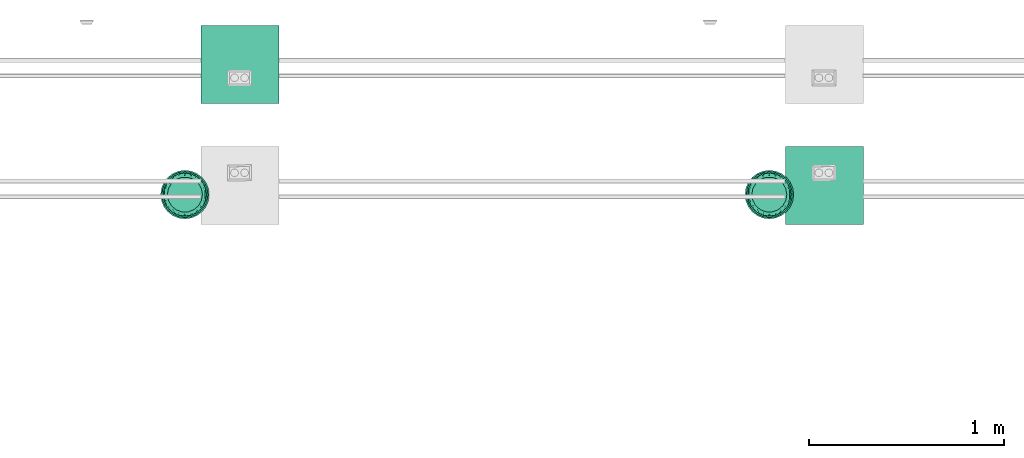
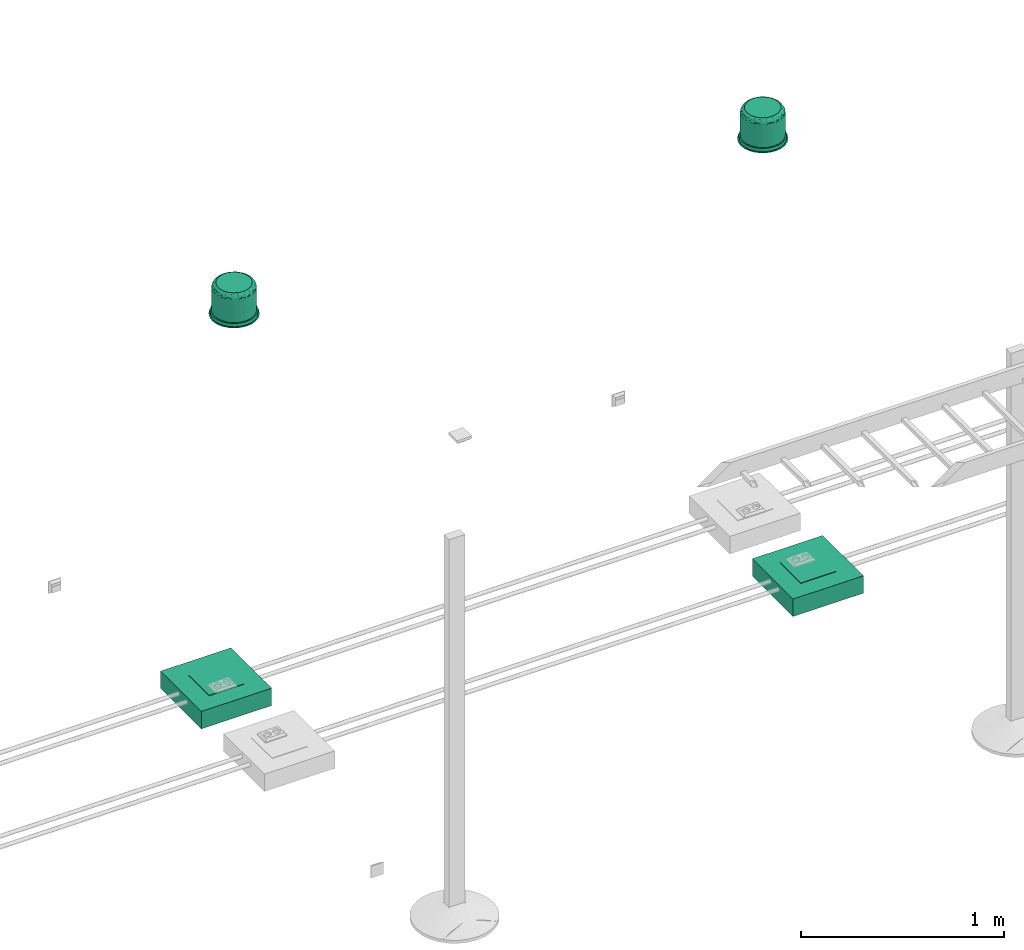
# One storey, part 17 of 24: 4 flow terminals.
"""IFC2X3 building model written with IfcOpenShell, lengths in millimetres."""

from ifc_helpers import new_model, entity, si_unit, converted_unit, derived_unit, direction, frame, origin_with_axes, place, context, subcontext, project, spatial, open_shell, surface_model, source, transform, mapped, type_object, element, save


model = new_model("IFC2X3")

# Units and contexts
model_context = context("Model", 3, precision=0.01, world=frame((0.0, 4.29681676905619e-09, 0.0)), true_north=direction((4.01073788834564e-13, 1.0)))
plan_context = context("Plan", 3, precision=0.01, world=frame((0.0, 4.29681676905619e-09, 0.0)), true_north=direction((4.01073788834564e-13, 1.0)))
body_context = subcontext(model_context, "Body", "Model", "MODEL_VIEW")
ifc_project = project(units=[converted_unit("PLANEANGLEUNIT", "DEGREE", entity("IfcPositiveLengthMeasure", 0.0174532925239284), si_unit("PLANEANGLEUNIT", "RADIAN"), dimensions=[0, 0, 0, 0, 0, 0, 0]), si_unit("AREAUNIT", "SQUARE_METRE"), si_unit("LENGTHUNIT", "METRE", prefix="MILLI"), si_unit("MASSUNIT", "GRAM", prefix="KILO"), si_unit("POWERUNIT", "WATT"), si_unit("PRESSUREUNIT", "PASCAL"), si_unit("FORCEUNIT", "NEWTON", prefix="KILO"), si_unit("ELECTRICVOLTAGEUNIT", "VOLT"), si_unit("ELECTRICCURRENTUNIT", "AMPERE"), si_unit("THERMODYNAMICTEMPERATUREUNIT", "DEGREE_CELSIUS"), si_unit("TIMEUNIT", "SECOND"), si_unit("VOLUMEUNIT", "CUBIC_METRE"), derived_unit("LINEARVELOCITYUNIT", [(si_unit("LENGTHUNIT", "METRE"), 1), (si_unit("TIMEUNIT", "SECOND"), -1)]), derived_unit("VOLUMETRICFLOWRATEUNIT", [(si_unit("VOLUMEUNIT", "CUBIC_METRE"), 1), (si_unit("TIMEUNIT", "SECOND"), -1)]), derived_unit("THERMALTRANSMITTANCEUNIT", [(si_unit("POWERUNIT", "WATT"), 1), (si_unit("THERMODYNAMICTEMPERATUREUNIT", "KELVIN"), -1), (si_unit("AREAUNIT", "SQUARE_METRE"), -1)]), derived_unit("SOUNDPRESSUREUNIT", [(si_unit("PRESSUREUNIT", "PASCAL"), 1)])], contexts=[model_context, plan_context])

# Site, building, storey
site_placement = place(None, frame((0.0, -4.29681676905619e-09, 0.0), z_axis=(0.0, 0.0, 1.0), x_axis=(1.0, 0.0, 0.0)))
site = spatial("IfcSite", under=ifc_project, at=site_placement, Name="ENGM", CompositionType="ELEMENT")
building_placement = place(site_placement, frame((0.0, 4.29681676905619e-09, 0.0), z_axis=(0.0, 0.0, 1.0), x_axis=(1.0, 0.0, 0.0)))
building = spatial("IfcBuilding", under=site, at=building_placement, Name="TH", CompositionType="ELEMENT")
storey_placement = place(building_placement, frame((0.0, 0.0, 210200.0), z_axis=(0.0, 0.0, 1.0), x_axis=(1.0, 0.0, 0.0)))
storey = spatial("IfcBuildingStorey", under=building, at=storey_placement, Name="Nivå F - 0,7 m", CompositionType="ELEMENT", Elevation=210200.0)

# Flow terminals
electric_appliance_type_1 = type_object("IfcElectricApplianceType", Name="Gulvboks 400x400", PredefinedType="NOTDEFINED")
shared_shape_1 = source(origin_with_axes(), body_context, "Body", "SurfaceModel", [
    surface_model("IfcShellBasedSurfaceModel", [(199.96, -199.96, -8.96812), (199.96, 200.0, -8.96812), (-200.0, 200.0, -8.96812), (-200.0, -199.96, -8.96812), (-200.0, -199.96, -108.96812), (-200.0, 200.0, -108.96812), (199.96, -199.96, -108.96812), (199.96, 200.0, -108.96812), (99.91278, -102.96181, -1.48406), (99.91278, 100.0, -1.48406), (-100.0, -102.96181, -1.48406), (-100.0, 100.0, -1.48406), (-100.0, -102.96181, -4.48406), (-100.0, 100.0, -4.48406), (99.91278, 100.0, -4.48406), (99.91278, -102.96181, -4.48406), (199.96, -199.96, -4.48406), (199.96, 200.0, -4.48406), (-200.0, 200.0, -4.48406), (-200.0, -199.96, -4.48406), (-200.0, -199.96, -104.48406), (-200.0, 200.0, -104.48406), (199.96, -199.96, -104.48406), (199.96, 200.0, -104.48406)], [open_shell([[[0, 1, 2]], [[2, 3, 0]], [[4, 5, 6]], [[7, 6, 5]], [[2, 1, 7]], [[7, 5, 2]], [[3, 2, 5]], [[5, 4, 3]], [[0, 3, 4]], [[4, 6, 0]], [[1, 0, 6]], [[6, 7, 1]], [[8, 9, 10]], [[11, 10, 9]], [[12, 13, 14]], [[14, 15, 12]], [[11, 9, 14]], [[14, 13, 11]], [[10, 11, 13]], [[13, 12, 10]], [[8, 10, 12]], [[12, 15, 8]], [[9, 8, 15]], [[15, 14, 9]], [[16, 17, 18]], [[18, 19, 16]], [[20, 21, 22]], [[23, 22, 21]], [[18, 17, 23]], [[23, 21, 18]], [[19, 18, 21]], [[21, 20, 19]], [[16, 19, 20]], [[20, 22, 16]], [[17, 16, 22]], [[22, 23, 17]]])]),
])
for number, where, z_axis, x_axis, name in (
    (1, (906999.725, 486379.56407, 1.5), (0.0, 0.0, 1.0), (1.0, 0.0, 0.0), "Gulvboks 400x400"),
    (2, (903999.725, 486999.56407, 1.5), (0.0, 0.0, 1.0), (1.0, 0.0, 0.0), "Gulvboks 400x400"),
):
    element("IfcFlowTerminal", number, at=place(storey_placement, frame(where, z_axis=z_axis, x_axis=x_axis)), inside=storey, type_object=electric_appliance_type_1, Name=name, context=body_context, shape_type="MappedRepresentation", body=[
        mapped(shared_shape_1, transform((0.0, 0.0, 0.0), scale=1.0)),
    ])
electric_appliance_type_2 = type_object("IfcElectricApplianceType", Name="Høyttaler innfelt", PredefinedType="NOTDEFINED")
shared_shape_2 = source(origin_with_axes(), body_context, "Body", "SurfaceModel", [
    surface_model("IfcShellBasedSurfaceModel", [(-68.944, 57.85088, 184.0), (-58.59195, 79.97902, 179.50754), (-80.0329, 55.28406, 180.76938), (-78.29994, 75.83774, 166.88554), (-50.40099, 96.24365, 167.73947), (-65.24416, 89.80089, 159.0), (-45.0, 77.94229, 184.0), (104.29833, 0.0, 174.69059), (98.55658, 30.89802, 175.83351), (97.14917, 0.0, 179.3453), (-98.55658, 30.89802, 175.83351), (-104.29833, 0.0, 174.69059), (-97.14917, 0.0, 179.3453), (93.09772, 49.71788, 173.10261), (104.32878, 23.10743, 171.13623), (97.92626, 46.3605, 168.38431), (-15.62834, 88.6327, 184.0), (-30.79138, 92.23996, 180.78615), (-104.32878, 23.10743, 171.13623), (55.89313, 88.54638, 174.18746), (30.93861, 99.42219, 174.89528), (58.59195, 79.97902, 179.50754), (-97.92626, 46.3605, 168.38431), (-93.09772, 49.71788, 173.10261), (-61.47959, 85.0435, 173.90083), (-30.93861, 99.42219, 174.89528), (45.0, 77.94229, 184.0), (68.944, 57.85088, 184.0), (-84.57234, 30.78181, 184.0), (-92.49153, 28.27678, 181.10339), (-89.80089, 65.24416, 159.0), (17.39577, 107.47851, 167.19599), (34.30089, 105.56728, 159.0), (0.0, 111.0, 159.0), (-34.30089, 105.56728, 159.0), (-17.39574, 107.47094, 167.21376), (30.79138, 92.23996, 180.78615), (0.0, 99.14465, 179.50754), (15.62834, 88.6327, 184.0), (-81.90835, 64.40302, 174.81219), (0.05017, 105.30857, 173.41796), (80.0329, 55.28406, 180.76938), (84.57234, 30.78181, 184.0), (90.0, 0.0, 184.0), (92.49153, 28.27678, 181.10339), (50.40099, 96.24365, 167.73947), (89.80089, 65.24416, 159.0), (105.56728, 34.30089, 159.0), (65.24416, 89.80089, 159.0), (-105.56728, 34.30089, 159.0), (78.29994, 75.83774, 166.88554), (105.52114, 29.61929, 165.29825), (90.11049, 46.65977, 177.6147), (-90.11049, 46.65977, 177.6147), (-107.8502, 0.0, 166.3746), (-105.52114, 29.61929, 165.29825), (-90.0, 0.0, 184.0), (81.90835, 64.40302, 174.81219), (-111.0, 0.0, 159.0), (111.0, 0.0, 159.0), (107.8502, 0.0, 166.3746), (68.944, -57.85088, 184.0), (58.59195, -79.97902, 179.50754), (80.0329, -55.28406, 180.76938), (78.29994, -75.83774, 166.88554), (50.40099, -96.24365, 167.73947), (65.24416, -89.80089, 159.0), (45.0, -77.94229, 184.0), (-98.55658, -30.89802, 175.83351), (98.55658, -30.89802, 175.83351), (-93.09772, -49.71788, 173.10261), (-104.32878, -23.10743, 171.13623), (-97.92626, -46.3605, 168.38431), (15.62834, -88.6327, 184.0), (30.79138, -92.23996, 180.78615), (104.32878, -23.10743, 171.13623), (-55.89313, -88.54638, 174.18746), (-30.93861, -99.42219, 174.89528), (-58.59195, -79.97902, 179.50754), (97.92626, -46.3605, 168.38431), (93.09772, -49.71788, 173.10261), (61.47959, -85.0435, 173.90083), (30.93861, -99.42219, 174.89528), (-45.0, -77.94229, 184.0), (-68.944, -57.85088, 184.0), (84.57234, -30.78181, 184.0), (92.49153, -28.27678, 181.10339), (89.80089, -65.24416, 159.0), (-17.39577, -107.47851, 167.19599), (-34.30089, -105.56728, 159.0), (0.0, -111.0, 159.0), (34.30089, -105.56728, 159.0), (17.39574, -107.47094, 167.21376), (81.90835, -64.40302, 174.81219), (-30.79138, -92.23996, 180.78615), (-15.62834, -88.6327, 184.0), (0.0, -99.14465, 179.50754), (-0.05017, -105.30857, 173.41796), (-80.0329, -55.28406, 180.76938), (-84.57234, -30.78181, 184.0), (-92.49153, -28.27678, 181.10339), (-50.40099, -96.24365, 167.73947), (-89.80089, -65.24416, 159.0), (-105.56728, -34.30089, 159.0), (-65.24416, -89.80089, 159.0), (-78.29994, -75.83774, 166.88554), (-90.11049, -46.65977, 177.6147), (-105.52114, -29.61929, 165.29825), (105.56728, -34.30089, 159.0), (90.11049, -46.65977, 177.6147), (105.52114, -29.61929, 165.29825), (-81.90835, -64.40302, 174.81219), (0.0, 0.0, 159.0), (0.0, 0.0, 184.0), (96.12882, -55.5, 159.0), (28.72892, -107.21777, 159.0), (55.5, -96.12882, 159.0), (78.48885, -78.48885, 159.0), (107.21777, -28.72892, 159.0), (-78.48885, -78.48885, 159.0), (-96.12882, 55.5, 159.0), (-55.5, -96.12882, 159.0), (-28.72892, -107.21777, 159.0), (-96.12882, -55.5, 159.0), (-107.21777, -28.72892, 159.0), (107.21777, 28.72892, 159.0), (55.5, 96.12882, 159.0), (96.12882, 55.5, 159.0), (78.48885, 78.48885, 159.0), (28.72892, 107.21777, 159.0), (-28.72892, 107.21777, 159.0), (-107.21777, 28.72892, 159.0), (-78.48885, 78.48885, 159.0), (-55.5, 96.12882, 159.0), (28.72892, 107.21777, 20.0), (-28.72892, 107.21777, 20.0), (0.0, 111.0, 20.0), (96.12882, 55.5, 20.0), (55.5, 96.12882, 20.0), (107.21777, 28.72892, 20.0), (78.48885, 78.48885, 20.0), (-96.12882, 55.5, 20.0), (-78.48885, 78.48885, 20.0), (-55.5, 96.12882, 20.0), (-107.21777, 28.72892, 20.0), (-96.12882, -55.5, 20.0), (-111.0, 0.0, 20.0), (-78.48885, -78.48885, 20.0), (111.0, 0.0, 20.0), (107.21777, -28.72892, 20.0), (96.12882, -55.5, 20.0), (28.72892, -107.21777, 20.0), (55.5, -96.12882, 20.0), (78.48885, -78.48885, 20.0), (-107.21777, -28.72892, 20.0), (-55.5, -96.12882, 20.0), (0.0, -111.0, 20.0), (-28.72892, -107.21777, 20.0), (0.0, -118.0, 20.0), (30.54065, -113.97924, 20.0), (59.0, -102.191, 20.0), (83.4386, -83.4386, 20.0), (102.191, -59.0, 20.0), (113.97924, -30.54065, 20.0), (118.0, 0.0, 20.0), (-30.54065, -113.97924, 20.0), (-83.4386, -83.4386, 20.0), (-59.0, -102.191, 20.0), (-118.0, 0.0, 20.0), (-102.191, -59.0, 20.0), (-113.97924, -30.54065, 20.0), (113.97924, 30.54065, 20.0), (102.191, 59.0, 20.0), (83.4386, 83.4386, 20.0), (59.0, 102.191, 20.0), (30.54065, 113.97924, 20.0), (0.0, 118.0, 20.0), (-30.54065, 113.97924, 20.0), (-102.191, 59.0, 20.0), (-113.97924, 30.54065, 20.0), (-83.4386, 83.4386, 20.0), (-59.0, 102.191, 20.0), (0.0, 118.0, 0.0), (30.54065, 113.97924, 0.0), (59.0, 102.191, 0.0), (-83.4386, 83.4386, 0.0), (83.4386, 83.4386, 0.0), (102.191, 59.0, 0.0), (113.97924, 30.54065, 0.0), (-118.0, 0.0, 0.0), (-113.97924, -30.54065, 0.0), (-30.54065, 113.97924, 0.0), (-59.0, 102.191, 0.0), (-102.191, 59.0, 0.0), (-113.97924, 30.54065, 0.0), (118.0, 0.0, 0.0), (113.97924, -30.54065, 0.0), (102.191, -59.0, 0.0), (83.4386, -83.4386, 0.0), (59.0, -102.191, 0.0), (30.54065, -113.97924, 0.0), (-83.4386, -83.4386, 0.0), (-102.191, -59.0, 0.0), (-30.54065, -113.97924, 0.0), (-59.0, -102.191, 0.0), (0.0, -118.0, 0.0), (-32.35238, 120.74073, 0.0), (-62.5, 108.25318, 0.0), (-88.38835, 88.38835, 0.0), (-108.25318, 62.5, 0.0), (-120.74073, 32.35238, 0.0), (62.5, 108.25318, 0.0), (-125.0, 0.0, 0.0), (0.0, 125.0, 0.0), (32.35238, 120.74073, 0.0), (88.38835, 88.38835, 0.0), (120.74073, 32.35238, 0.0), (108.25318, 62.5, 0.0), (-120.74073, -32.35238, 0.0), (125.0, 0.0, 0.0), (-108.25318, -62.5, 0.0), (-32.35238, -120.74073, 0.0), (-88.38835, -88.38835, 0.0), (-62.5, -108.25318, 0.0), (0.0, -125.0, 0.0), (120.74073, -32.35238, 0.0), (88.38835, -88.38835, 0.0), (108.25318, -62.5, 0.0), (32.35238, -120.74073, 0.0), (62.5, -108.25318, 0.0), (-32.35238, -120.74073, -3.0), (88.38835, -88.38835, -3.0), (0.0, -125.0, -3.0), (-88.38835, -88.38835, -3.0), (-62.5, -108.25318, -3.0), (-108.25318, -62.5, -3.0), (-120.74073, -32.35238, -3.0), (88.38835, 88.38835, -3.0), (32.35238, -120.74073, -3.0), (62.5, -108.25318, -3.0), (120.74073, -32.35238, -3.0), (108.25318, -62.5, -3.0), (125.0, 0.0, -3.0), (-125.0, 0.0, -3.0), (-120.74073, 32.35238, -3.0), (-32.35238, 120.74073, -3.0), (-108.25318, 62.5, -3.0), (-88.38835, 88.38835, -3.0), (-62.5, 108.25318, -3.0), (120.74073, 32.35238, -3.0), (108.25318, 62.5, -3.0), (62.5, 108.25318, -3.0), (0.0, 125.0, -3.0), (32.35238, 120.74073, -3.0), (-84.57234, 30.78181, -6.0), (-102.5, 0.0, -5.0), (-96.31849, 35.05706, -5.0), (-45.0, 77.94229, -6.0), (-78.51955, 65.88573, -5.0), (-51.25, 88.7676, -5.0), (-68.944, 57.85088, -6.0), (-17.79894, 100.94279, -5.0), (-15.62834, 88.6327, -6.0), (-90.0, 0.0, -6.0), (15.62834, 88.6327, -6.0), (45.0, 77.94229, -6.0), (17.79894, 100.94279, -5.0), (51.25, 88.7676, -5.0), (96.31849, 35.05706, -5.0), (102.5, 0.0, -5.0), (90.0, 0.0, -6.0), (78.51955, 65.88573, -5.0), (68.944, 57.85088, -6.0), (84.57234, 30.78181, -6.0), (84.57234, -30.78181, -6.0), (96.31849, -35.05706, -5.0), (45.0, -77.94229, -6.0), (78.51955, -65.88573, -5.0), (51.25, -88.7676, -5.0), (68.944, -57.85088, -6.0), (17.79894, -100.94279, -5.0), (15.62834, -88.6327, -6.0), (-15.62834, -88.6327, -6.0), (-45.0, -77.94229, -6.0), (-17.79894, -100.94279, -5.0), (-51.25, -88.7676, -5.0), (-84.57234, -30.78181, -6.0), (-78.51955, -65.88573, -5.0), (-96.31849, -35.05706, -5.0), (-68.944, -57.85088, -6.0), (0.0, 0.0, -6.0), (106.99386, 34.76441, -3.0), (0.0, 0.0, -3.0), (112.5, 0.0, -3.0), (91.01441, 66.12584, -3.0), (66.12584, 91.01441, -3.0), (34.76441, 106.99386, -3.0), (0.0, 112.5, -3.0), (-91.01441, 66.12584, -3.0), (-106.99386, 34.76441, -3.0), (-66.12584, 91.01441, -3.0), (-34.76441, 106.99386, -3.0), (-112.5, 0.0, -3.0), (66.12584, -91.01441, -3.0), (91.01441, -66.12584, -3.0), (34.76441, -106.99386, -3.0), (106.99386, -34.76441, -3.0), (0.0, -112.5, -3.0), (-66.12584, -91.01441, -3.0), (-34.76441, -106.99386, -3.0), (-91.01441, -66.12584, -3.0), (-106.99386, -34.76441, -3.0)], [open_shell([[[0, 1, 2]], [[3, 4, 5]], [[0, 6, 1]], [[7, 8, 9]], [[10, 11, 12]], [[13, 14, 15]], [[7, 14, 8]], [[6, 16, 17]], [[18, 11, 10]], [[19, 20, 21]], [[22, 23, 3]], [[24, 25, 4]], [[26, 27, 21]], [[28, 2, 29]], [[3, 5, 30]], [[31, 32, 33]], [[33, 34, 35]], [[36, 37, 38]], [[4, 35, 34]], [[1, 24, 39]], [[26, 36, 38]], [[17, 37, 25]], [[20, 31, 40]], [[21, 20, 36]], [[41, 21, 27]], [[41, 27, 42]], [[0, 2, 28]], [[43, 9, 44]], [[20, 19, 45]], [[46, 15, 47]], [[17, 1, 6]], [[31, 20, 45]], [[48, 32, 45]], [[30, 49, 22]], [[34, 5, 4]], [[15, 46, 50]], [[14, 51, 15]], [[48, 50, 46]], [[33, 35, 31]], [[8, 13, 52]], [[2, 39, 53]], [[37, 16, 38]], [[54, 18, 55]], [[28, 29, 56]], [[45, 19, 50]], [[37, 17, 16]], [[1, 17, 25]], [[21, 36, 26]], [[37, 36, 20]], [[1, 39, 2]], [[23, 53, 39]], [[44, 41, 42]], [[57, 21, 41]], [[10, 12, 29]], [[22, 18, 23]], [[13, 8, 14]], [[52, 41, 44]], [[4, 25, 35]], [[25, 37, 40]], [[31, 35, 40]], [[45, 32, 31]], [[22, 3, 30]], [[3, 39, 24]], [[45, 50, 48]], [[50, 57, 13]], [[58, 54, 55]], [[23, 18, 10]], [[59, 47, 51]], [[56, 29, 12]], [[43, 44, 42]], [[8, 44, 9]], [[25, 40, 35]], [[20, 40, 37]], [[25, 24, 1]], [[3, 24, 4]], [[21, 57, 19]], [[50, 19, 57]], [[53, 23, 10]], [[3, 23, 39]], [[10, 29, 53]], [[2, 53, 29]], [[50, 13, 15]], [[52, 13, 57]], [[41, 52, 57]], [[44, 8, 52]], [[55, 18, 22]], [[54, 11, 18]], [[22, 49, 55]], [[55, 49, 58]], [[7, 60, 14]], [[60, 59, 51]], [[60, 51, 14]], [[47, 15, 51]], [[61, 62, 63]], [[64, 65, 66]], [[61, 67, 62]], [[11, 68, 12]], [[69, 7, 9]], [[70, 71, 72]], [[11, 71, 68]], [[67, 73, 74]], [[75, 7, 69]], [[76, 77, 78]], [[79, 80, 64]], [[81, 82, 65]], [[83, 84, 78]], [[85, 63, 86]], [[64, 66, 87]], [[88, 89, 90]], [[90, 91, 92]], [[91, 66, 65]], [[65, 92, 91]], [[62, 81, 93]], [[83, 94, 95]], [[74, 96, 82]], [[77, 88, 97]], [[78, 77, 94]], [[98, 78, 84]], [[98, 84, 99]], [[61, 63, 85]], [[56, 12, 100]], [[77, 76, 101]], [[102, 72, 103]], [[104, 105, 102]], [[88, 77, 101]], [[104, 89, 101]], [[68, 70, 106]], [[74, 62, 67]], [[72, 102, 105]], [[71, 107, 72]], [[87, 108, 79]], [[90, 92, 88]], [[94, 96, 95]], [[63, 93, 109]], [[96, 73, 95]], [[60, 75, 110]], [[85, 86, 43]], [[101, 76, 105]], [[96, 74, 73]], [[62, 74, 82]], [[78, 94, 83]], [[96, 94, 77]], [[62, 93, 63]], [[80, 109, 93]], [[100, 98, 99]], [[111, 78, 98]], [[69, 9, 86]], [[79, 75, 80]], [[70, 68, 71]], [[106, 98, 100]], [[65, 82, 92]], [[82, 96, 97]], [[88, 92, 97]], [[101, 89, 88]], [[79, 64, 87]], [[64, 93, 81]], [[101, 105, 104]], [[105, 111, 70]], [[59, 60, 110]], [[80, 75, 69]], [[58, 103, 107]], [[43, 86, 9]], [[56, 100, 99]], [[68, 100, 12]], [[82, 97, 92]], [[77, 97, 96]], [[82, 81, 62]], [[64, 81, 65]], [[78, 111, 76]], [[105, 76, 111]], [[109, 80, 69]], [[64, 80, 93]], [[69, 86, 109]], [[63, 109, 86]], [[105, 70, 72]], [[106, 70, 111]], [[98, 106, 111]], [[100, 68, 106]], [[110, 75, 79]], [[60, 7, 75]], [[79, 108, 110]], [[110, 108, 59]], [[11, 54, 71]], [[54, 58, 107]], [[54, 107, 71]], [[103, 72, 107]], [[59, 112, 47]], [[47, 112, 46]], [[112, 48, 46]], [[48, 112, 32]], [[112, 33, 32]], [[112, 49, 30]], [[30, 5, 112]], [[34, 33, 112]], [[112, 5, 34]], [[112, 58, 49]], [[112, 87, 66]], [[112, 66, 91]], [[112, 108, 87]], [[59, 108, 112]], [[91, 90, 112]], [[112, 89, 104]], [[112, 104, 102]], [[112, 103, 58]], [[103, 112, 102]], [[89, 112, 90]], [[27, 113, 42]], [[26, 113, 27]], [[113, 26, 38]], [[113, 43, 42]], [[28, 56, 113]], [[0, 28, 113]], [[16, 6, 113]], [[0, 113, 6]], [[38, 16, 113]], [[67, 61, 113]], [[61, 85, 113]], [[113, 85, 43]], [[73, 67, 113]], [[83, 95, 113]], [[84, 83, 113]], [[56, 99, 113]], [[84, 113, 99]], [[73, 113, 95]], [[114, 115, 116]], [[114, 116, 117]], [[114, 118, 59]], [[114, 59, 115]], [[119, 115, 120]], [[90, 121, 122]], [[90, 115, 121]], [[123, 58, 124]], [[121, 115, 119]], [[123, 119, 58]], [[125, 115, 59]], [[126, 125, 127]], [[126, 127, 128]], [[125, 129, 120]], [[129, 125, 126]], [[130, 129, 33]], [[119, 131, 58]], [[120, 131, 119]], [[132, 130, 133]], [[130, 132, 120]], [[129, 130, 120]], [[120, 115, 125]], [[134, 135, 136]], [[137, 134, 138]], [[137, 139, 134]], [[137, 138, 140]], [[141, 134, 139]], [[135, 142, 143]], [[142, 135, 141]], [[144, 145, 146]], [[141, 135, 134]], [[144, 141, 145]], [[141, 139, 147]], [[148, 149, 150]], [[150, 151, 139]], [[152, 151, 150]], [[152, 150, 153]], [[139, 151, 147]], [[146, 145, 154]], [[147, 145, 141]], [[155, 156, 157]], [[155, 147, 151]], [[156, 155, 151]], [[139, 148, 150]], [[124, 154, 145]], [[147, 123, 145]], [[121, 155, 157]], [[147, 155, 119]], [[122, 157, 156]], [[154, 58, 146]], [[154, 124, 58]], [[145, 123, 124]], [[147, 119, 123]], [[121, 119, 155]], [[157, 122, 121]], [[156, 90, 122]], [[115, 151, 152]], [[153, 116, 152]], [[114, 150, 149]], [[153, 150, 117]], [[118, 149, 148]], [[151, 115, 90]], [[152, 116, 115]], [[153, 117, 116]], [[150, 114, 117]], [[118, 114, 149]], [[148, 59, 118]], [[151, 90, 156]], [[125, 148, 139]], [[127, 139, 137]], [[126, 138, 134]], [[129, 134, 136]], [[139, 127, 125]], [[125, 59, 148]], [[140, 128, 127]], [[140, 138, 128]], [[128, 138, 126]], [[134, 129, 126]], [[140, 127, 137]], [[136, 33, 129]], [[130, 135, 143]], [[142, 133, 143]], [[120, 141, 144]], [[142, 141, 132]], [[131, 144, 146]], [[135, 130, 33]], [[143, 133, 130]], [[142, 132, 133]], [[141, 120, 132]], [[131, 120, 144]], [[146, 58, 131]], [[135, 33, 136]], [[158, 159, 160]], [[161, 158, 160]], [[162, 163, 164]], [[158, 161, 162]], [[158, 162, 164]], [[165, 166, 167]], [[166, 165, 158]], [[164, 166, 158]], [[166, 168, 169]], [[169, 168, 170]], [[168, 166, 164]], [[171, 172, 173]], [[168, 171, 173]], [[174, 175, 176]], [[168, 173, 174]], [[177, 174, 176]], [[168, 178, 179]], [[178, 168, 177]], [[180, 177, 181]], [[177, 180, 178]], [[168, 174, 177]], [[171, 168, 164]], [[182, 183, 184]], [[185, 182, 184]], [[186, 187, 188]], [[189, 184, 186]], [[190, 189, 186]], [[191, 185, 192]], [[191, 182, 185]], [[193, 189, 194]], [[185, 184, 193]], [[184, 189, 193]], [[186, 188, 190]], [[195, 196, 197]], [[197, 198, 188]], [[190, 198, 199]], [[198, 190, 188]], [[200, 190, 199]], [[200, 201, 202]], [[202, 190, 200]], [[201, 203, 204]], [[203, 201, 205]], [[205, 201, 200]], [[188, 195, 197]], [[190, 170, 189]], [[202, 169, 190]], [[167, 201, 204]], [[202, 201, 166]], [[165, 204, 203]], [[190, 169, 170]], [[170, 168, 189]], [[165, 167, 204]], [[166, 201, 167]], [[166, 169, 202]], [[158, 165, 203]], [[203, 205, 158]], [[200, 159, 205]], [[199, 160, 200]], [[162, 198, 197]], [[199, 198, 161]], [[163, 197, 196]], [[199, 161, 160]], [[160, 159, 200]], [[164, 163, 196]], [[162, 197, 163]], [[162, 161, 198]], [[195, 164, 196]], [[205, 159, 158]], [[188, 171, 195]], [[187, 172, 188]], [[174, 186, 184]], [[187, 186, 173]], [[175, 184, 183]], [[188, 172, 171]], [[171, 164, 195]], [[175, 174, 184]], [[173, 186, 174]], [[173, 172, 187]], [[176, 175, 183]], [[183, 182, 176]], [[191, 177, 182]], [[192, 181, 191]], [[179, 194, 189]], [[185, 180, 192]], [[192, 180, 181]], [[181, 177, 191]], [[193, 178, 180]], [[193, 194, 178]], [[178, 194, 179]], [[189, 168, 179]], [[193, 180, 185]], [[182, 177, 176]], [[206, 207, 208]], [[206, 208, 209]], [[206, 210, 211]], [[210, 206, 209]], [[211, 210, 212]], [[213, 211, 214]], [[213, 206, 211]], [[215, 216, 217]], [[218, 215, 211]], [[219, 216, 215]], [[218, 211, 212]], [[220, 219, 218]], [[221, 220, 222]], [[220, 221, 219]], [[221, 222, 223]], [[224, 219, 221]], [[225, 226, 227]], [[226, 225, 219]], [[226, 228, 229]], [[228, 226, 219]], [[219, 224, 228]], [[218, 219, 215]], [[230, 231, 232]], [[233, 230, 234]], [[235, 236, 230]], [[235, 230, 233]], [[230, 237, 231]], [[238, 231, 239]], [[238, 232, 231]], [[231, 240, 241]], [[240, 231, 242]], [[231, 237, 242]], [[230, 236, 243]], [[244, 237, 243]], [[245, 244, 246]], [[247, 248, 245]], [[247, 245, 246]], [[237, 244, 245]], [[249, 237, 250]], [[242, 237, 249]], [[251, 252, 253]], [[252, 251, 237]], [[245, 252, 237]], [[237, 230, 243]], [[249, 216, 242]], [[250, 217, 249]], [[211, 237, 251]], [[250, 237, 215]], [[214, 251, 253]], [[249, 217, 216]], [[216, 219, 242]], [[214, 211, 251]], [[215, 237, 211]], [[215, 217, 250]], [[213, 214, 253]], [[253, 252, 213]], [[245, 206, 252]], [[248, 207, 245]], [[209, 247, 246]], [[248, 247, 208]], [[210, 246, 244]], [[248, 208, 207]], [[207, 206, 245]], [[212, 210, 244]], [[209, 246, 210]], [[209, 208, 247]], [[243, 212, 244]], [[252, 206, 213]], [[236, 218, 243]], [[235, 220, 236]], [[223, 233, 234]], [[235, 233, 222]], [[221, 234, 230]], [[236, 220, 218]], [[218, 212, 243]], [[221, 223, 234]], [[222, 233, 223]], [[222, 220, 235]], [[224, 221, 230]], [[230, 232, 224]], [[228, 232, 238]], [[239, 229, 238]], [[227, 241, 240]], [[225, 240, 242]], [[239, 226, 229]], [[229, 228, 238]], [[231, 227, 226]], [[231, 241, 227]], [[227, 240, 225]], [[242, 219, 225]], [[231, 226, 239]], [[232, 228, 224]], [[254, 255, 256]], [[257, 258, 259]], [[256, 258, 260]], [[259, 261, 262]], [[263, 255, 254]], [[258, 257, 260]], [[260, 254, 256]], [[257, 259, 262]], [[261, 264, 262]], [[265, 266, 267]], [[268, 269, 270]], [[267, 271, 272]], [[268, 272, 271]], [[264, 266, 265]], [[265, 267, 272]], [[270, 273, 268]], [[268, 273, 272]], [[266, 264, 261]], [[274, 269, 275]], [[276, 277, 278]], [[275, 277, 279]], [[278, 280, 281]], [[270, 269, 274]], [[277, 276, 279]], [[279, 274, 275]], [[276, 278, 281]], [[280, 282, 281]], [[283, 284, 285]], [[286, 287, 288]], [[285, 287, 289]], [[288, 255, 263]], [[282, 284, 283]], [[287, 286, 289]], [[289, 283, 285]], [[286, 288, 263]], [[284, 282, 280]], [[273, 290, 272]], [[272, 290, 265]], [[264, 265, 290]], [[273, 270, 290]], [[290, 263, 254]], [[290, 254, 260]], [[290, 257, 262]], [[257, 290, 260]], [[290, 262, 264]], [[290, 279, 276]], [[290, 274, 279]], [[270, 274, 290]], [[290, 276, 281]], [[290, 282, 283]], [[290, 283, 289]], [[290, 286, 263]], [[286, 290, 289]], [[282, 290, 281]], [[291, 292, 293]], [[294, 292, 291]], [[294, 295, 292]], [[296, 292, 295]], [[296, 297, 292]], [[298, 299, 292]], [[292, 300, 298]], [[292, 297, 301]], [[301, 300, 292]], [[299, 302, 292]], [[303, 304, 292]], [[305, 303, 292]], [[304, 306, 292]], [[292, 306, 293]], [[292, 307, 305]], [[308, 309, 292]], [[310, 308, 292]], [[302, 311, 292]], [[310, 292, 311]], [[307, 292, 309]], [[255, 302, 299]], [[258, 298, 300]], [[299, 298, 256]], [[300, 301, 259]], [[255, 299, 256]], [[300, 259, 258]], [[258, 256, 298]], [[259, 301, 261]], [[301, 297, 261]], [[266, 297, 296]], [[291, 293, 269]], [[267, 296, 295]], [[295, 271, 267]], [[267, 266, 296]], [[291, 268, 294]], [[268, 291, 269]], [[294, 268, 271]], [[294, 271, 295]], [[297, 266, 261]], [[269, 293, 306]], [[277, 304, 303]], [[306, 304, 275]], [[303, 305, 278]], [[269, 306, 275]], [[303, 278, 277]], [[277, 275, 304]], [[278, 305, 280]], [[305, 307, 280]], [[284, 307, 309]], [[287, 308, 310]], [[309, 308, 285]], [[310, 311, 288]], [[308, 287, 285]], [[285, 284, 309]], [[311, 255, 288]], [[288, 287, 310]], [[311, 302, 255]], [[307, 284, 280]]])]),
])
for number, where, z_axis, x_axis in (
    (3, (906716.5, 486332.65, 2700.0), (0.0, 0.0, 1.0), (1.0, 0.0, 0.0)),
    (4, (903716.5, 486332.65, 2700.0), (0.0, 0.0, 1.0), (1.0, 0.0, 0.0)),
):
    element("IfcFlowTerminal", number, at=place(storey_placement, frame(where, z_axis=z_axis, x_axis=x_axis)), inside=storey, type_object=electric_appliance_type_2, Name="Høyttaler innfelt", context=body_context, shape_type="MappedRepresentation", body=[
        mapped(shared_shape_2, transform((0.0, 0.0, 0.0), scale=1.0)),
    ])

save(model, "model.ifc")
